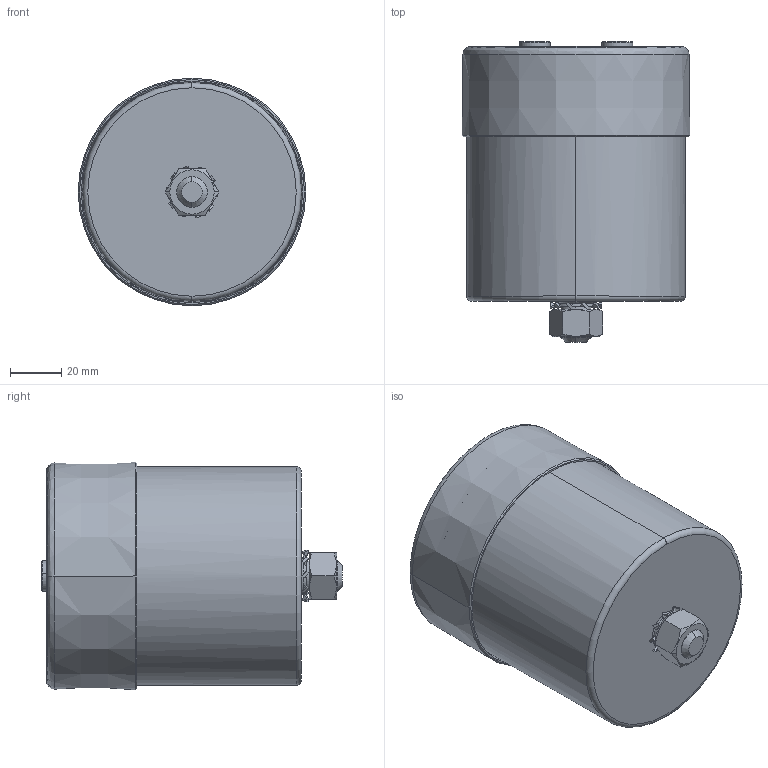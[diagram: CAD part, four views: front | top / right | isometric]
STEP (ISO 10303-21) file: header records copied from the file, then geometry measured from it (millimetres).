
FILE_DESCRIPTION (( 'STEP AP203' ), '1' );
FILE_NAME ('B25620Bx_85x99_101.STEP', '2021-07-01T01:40:45', ( '' ), ( '' ), 'SwSTEP 2.0', 'SolidWorks 2017', '' );
FILE_SCHEMA (( 'CONFIG_CONTROL_DESIGN' ));
Length unit declared in the file: millimetre
Products named in the file (1): B25620Bx_85x99_101
Bounding box: 88.5 x 117 x 88.5 mm (x, y, z)
Volume: 72008.6 mm3; surface area: 102073 mm2
Topology: 4 solids, 7 shells, 401 faces, 1027 edges, 642 vertices
Faces by surface type: bspline 124, cylinder 114, plane 97, cone 52, torus 14
Entity records: 15845 total; most frequent: CARTESIAN_POINT 6858, ORIENTED_EDGE 2026, DIRECTION 1621, EDGE_CURVE 1013, VERTEX_POINT 642, AXIS2_PLACEMENT_3D 642, EDGE_LOOP 443, ADVANCED_FACE 401
